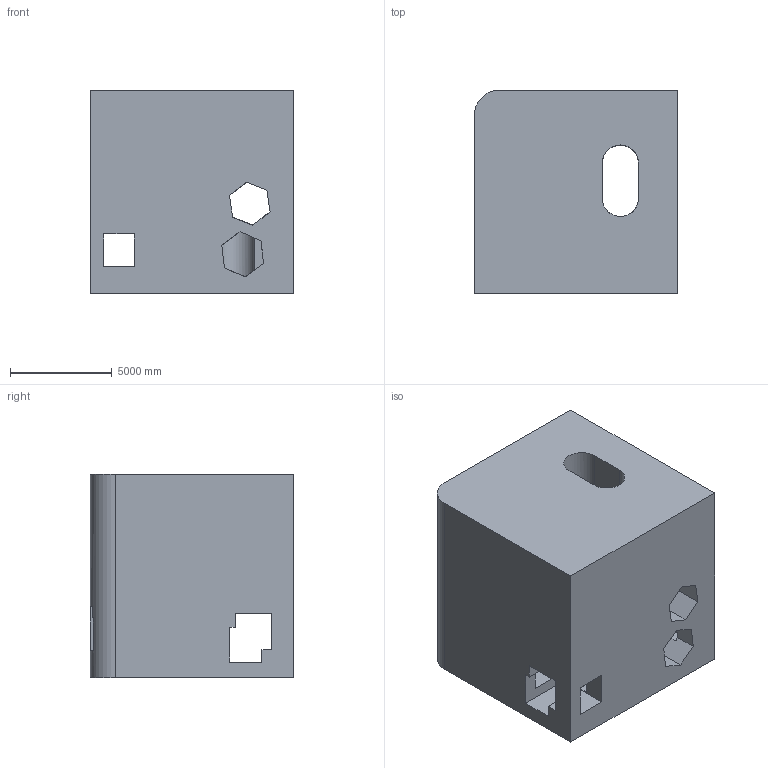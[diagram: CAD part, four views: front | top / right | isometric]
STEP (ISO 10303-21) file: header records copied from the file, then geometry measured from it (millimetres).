
FILE_DESCRIPTION (( 'STEP AP203' ), '1' );
FILE_NAME ('1722.STEP', '2022-08-25T15:34:11', ( 'user' ), ( '' ), 'SwSTEP 2.0', 'SolidWorks 2021', '' );
FILE_SCHEMA (( 'CONFIG_CONTROL_DESIGN' ));
Length unit declared in the file: centimetre
Products named in the file (1): 1722
Bounding box: 10000 x 10000 x 10000 mm (x, y, z)
Volume: 840987282514.6 mm3; surface area: 838667359.4 mm2
Topology: 1 solids, 1 shells, 57 faces, 189 edges, 126 vertices
Faces by surface type: plane 54, cylinder 3
Entity records: 2141 total; most frequent: CARTESIAN_POINT 418, ORIENTED_EDGE 378, DIRECTION 299, EDGE_CURVE 189, LINE 165, VECTOR 165, VERTEX_POINT 126, AXIS2_PLACEMENT_3D 67
